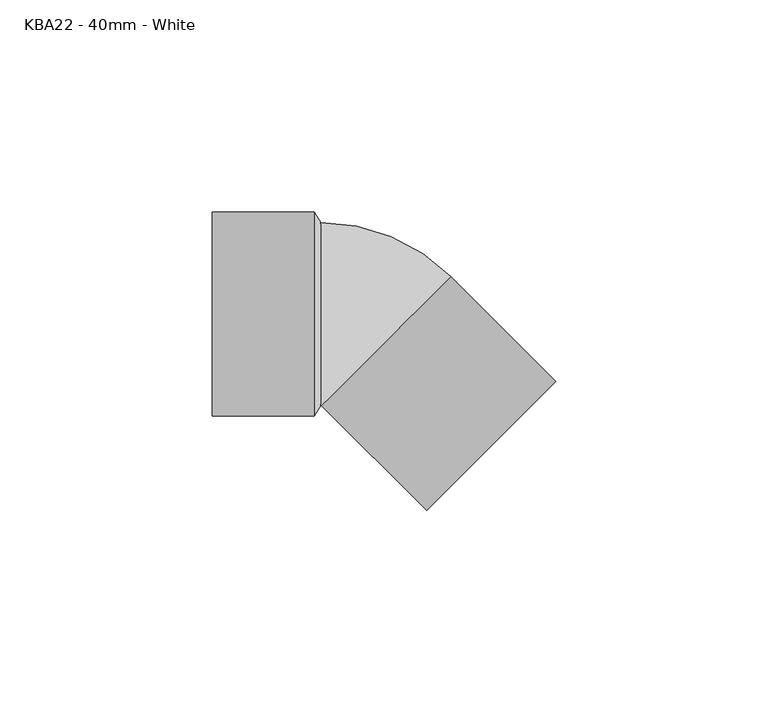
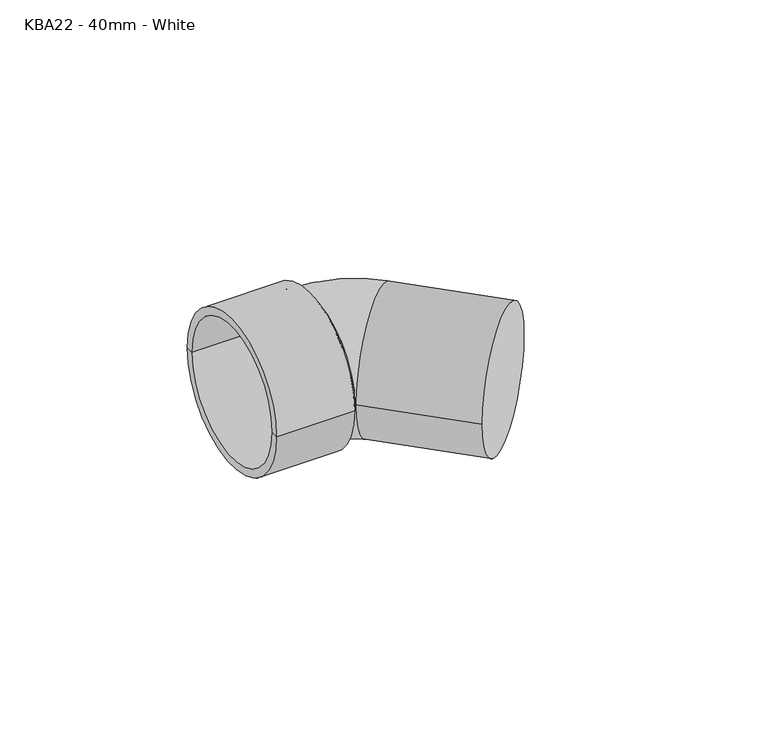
"""IFC4 building model written with IfcOpenShell, lengths in millimetres: pipe fitting geometry, MarleyPlumbingAndDrainage_PipeFitting_SpigotBend45 : KBA22 - 40mm - White."""

from ifc_helpers import new_model, si_unit, point, frame, origin, place, context, project, spatial, polyline, circle_curve, ellipse_curve, trimmed, source, transform, mapped, element, save
from ifc_brep_helpers import plane_surface, cylinder_surface, revolved_surface, advanced_brep


def kba22_40mm_white_08678ae4(model_context):
    return source(origin(), model_context, "Body", "AdvancedBrep", [
        advanced_brep(
        [(-49.2966437, -24.0, 0.0), (-25.2966437, -24.0, 0.0), (-25.2966437, 24.0, 0.0), (-49.2966437, 24.0, 0.0), (-49.2966437, -21.5, 0.0), (-49.2966437, 21.5, 0.0), (-25.2966437, -21.5, 0.0), (-25.2966437, 21.5, 0.0), (-25.2966437, 0.0, 0.0), (-23.7966437, -21.5, 0.0), (-23.7966437, 0.0, 0.0), (-23.7966437, 21.5, 0.0)],
        [
            (0, 1),
            (1, 2, circle_curve(frame((-25.2966437, 0.0, 0.0), z_axis=(-1.0, 0.0, 0.0), x_axis=(0.0, 1.0, 0.0)), 24.0)),
            (2, 3),
            (3, 0, circle_curve(frame((-49.2966437, 0.0, 0.0), z_axis=(1.0, 0.0, 0.0), x_axis=(0.0, 1.0, 0.0)), 24.0)),
            (2, 1, circle_curve(frame((-25.2966437, 0.0, 0.0), z_axis=(-1.0, 0.0, 0.0), x_axis=(0.0, 1.0, 0.0)), 24.0)),
            (0, 3, circle_curve(frame((-49.2966437, 0.0, 0.0), z_axis=(1.0, 0.0, 0.0), x_axis=(0.0, 1.0, 0.0)), 24.0)),
            (4, 0),
            (3, 5),
            (5, 4, circle_curve(frame((-49.2966437, 0.0, 0.0), z_axis=(1.0, 0.0, 0.0), x_axis=(0.0, 1.0, 0.0)), 21.5)),
            (4, 5, circle_curve(frame((-49.2966437, 0.0, 0.0), z_axis=(1.0, 0.0, 0.0), x_axis=(0.0, 1.0, 0.0)), 21.5)),
            (6, 4),
            (5, 7),
            (7, 6, circle_curve(frame((-25.2966437, 0.0, 0.0), z_axis=(1.0, 0.0, 0.0), x_axis=(0.0, 1.0, 0.0)), 21.5)),
            (6, 7, circle_curve(frame((-25.2966437, 0.0, 0.0), z_axis=(1.0, 0.0, 0.0), x_axis=(0.0, 1.0, 0.0)), 21.5)),
            (8, 6),
            (7, 8),
            (9, 10),
            (10, 11),
            (11, 9, circle_curve(frame((-23.7966437, 0.0, 0.0), z_axis=(1.0, 0.0, 0.0), x_axis=(0.0, 1.0, 0.0)), 21.5)),
            (9, 11, circle_curve(frame((-23.7966437, 0.0, 0.0), z_axis=(1.0, 0.0, 0.0), x_axis=(0.0, 1.0, 0.0)), 21.5)),
            (1, 9),
            (11, 2),
        ],
        [
            cylinder_surface(frame((-28.954435, 0.0, 0.0), z_axis=(-1.0, 0.0, 0.0), x_axis=(0.0, 1.0, 0.0)), 24.0),
            plane_surface(frame((-49.2966437, 0.0, 0.0), z_axis=(-1.0, 0.0, 0.0), x_axis=(0.0, 1.0, 0.0))),
            revolved_surface(polyline([(-49.2966437, 21.5, 0.0), (-25.2966437, 21.5, 0.0)]), (-28.954435, 0.0, 0.0), (-1.0, 0.0, 0.0)),
            plane_surface(frame((-25.2966437, 0.0, 0.0), z_axis=(-1.0, 0.0, 0.0), x_axis=(0.0, 1.0, 0.0))),
            plane_surface(frame((-23.7966437, 0.0, 0.0), z_axis=(1.0, 0.0, 0.0), x_axis=(0.0, 1.0, 0.0))),
            revolved_surface(polyline([(-23.7966437, 21.5, 0.0), (-25.2966437, 24.0, 0.0)]), (-28.954435, 0.0, 0.0), (-1.0, 0.0, 0.0)),
        ],
        [
            (0, [[1, 2, 3, 4]]),
            (0, [[-3, 5, -1, 6]]),
            (1, [[7, -4, 8, 9]]),
            (1, [[-8, -6, -7, 10]]),
            (2, [[11, -9, 12, 13]]),
            (2, [[-12, -10, -11, 14]]),
            (3, [[15, -13, 16]]),
            (3, [[-16, -14, -15]]),
            (4, [[17, 18, 19]]),
            (4, [[-18, -17, 20]]),
            (5, [[21, -19, 22, -2]]),
            (5, [[-22, -20, -21, -5]]),
        ],
    ),
        advanced_brep(
        [(-23.7966437, 21.5, 0.0), (-23.7966437, -21.5, 0.0), (-23.5845117, -21.587868, 0.0), (6.8210799, 8.8177236, 0.0), (31.5698172, -15.9310137, 0.0), (1.1642256, -46.3366053, 0.0)],
        [
            (0, 1, circle_curve(frame((-23.7966437, 0.0, 0.0), z_axis=(-1.0, 0.0, 0.0), x_axis=(0.0, -1.0, 0.0)), 21.5)),
            (1, 0, circle_curve(frame((-23.7966437, 0.0, 0.0), z_axis=(-1.0, 0.0, 0.0), x_axis=(0.0, -1.0, 0.0)), 21.5)),
            (2, 3, circle_curve(frame((-8.3817159, -6.3850722, 0.0), z_axis=(-0.7071067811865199, 0.7071067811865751, 0.0), x_axis=(-0.7071067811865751, -0.7071067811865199, 0.0)), 21.5)),
            (3, 0, circle_curve(frame((-23.7966437, -21.8, 0.0), z_axis=(0.0, 0.0, 1.0), x_axis=(0.0, 1.0, 0.0)), 43.3)),
            (1, 2, circle_curve(frame((-23.7966437, -21.8, 0.0), z_axis=(0.0, 0.0, -1.0), x_axis=(0.0, 1.0, 0.0)), 0.3)),
            (3, 2, circle_curve(frame((-8.3817159, -6.3850722, 0.0), z_axis=(-0.7071067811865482, 0.7071067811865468, 0.0), x_axis=(-0.7071067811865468, -0.7071067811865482, 0.0)), 21.5)),
            (4, 5, circle_curve(frame((16.3670214, -31.1338095, 0.0), z_axis=(0.7071067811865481, -0.7071067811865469, 0.0), x_axis=(-0.7071067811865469, -0.7071067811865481, 0.0)), 21.5)),
            (5, 4, circle_curve(frame((16.3670214, -31.1338095, 0.0), z_axis=(0.7071067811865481, -0.7071067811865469, 0.0), x_axis=(-0.7071067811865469, -0.7071067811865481, 0.0)), 21.5)),
            (2, 5),
            (4, 3),
        ],
        [
            plane_surface(frame((-23.7966437, 0.0, 0.0), z_axis=(-1.0, 0.0, 0.0), x_axis=(0.0, 0.0, 1.0))),
            revolved_surface(trimmed(ellipse_curve(frame((-23.7966437, 0.0, 0.0), z_axis=(1.0, 0.0, 0.0), x_axis=(0.0, -1.0, 0.0)), 21.5, 21.5), [point((-23.7966437, 21.5, 0.0))], [point((-23.7966437, -21.5, 0.0))], True, "CARTESIAN"), (-23.7966437, -21.8, 0.0), (0.0, 0.0, 1.0)),
            revolved_surface(trimmed(ellipse_curve(frame((-23.7966437, 0.0, 0.0), z_axis=(1.0, 0.0, 0.0), x_axis=(0.0, -1.0, 0.0)), 21.5, 21.5), [point((-23.7966437, -21.5, 0.0))], [point((-23.7966437, 21.5, 0.0))], True, "CARTESIAN"), (-23.7966437, -21.8, 0.0), (0.0, 0.0, 1.0)),
            plane_surface(frame((16.3670214, -31.1338095, 0.0), z_axis=(0.7071067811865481, -0.7071067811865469, 0.0), x_axis=(0.0, 0.0, 1.0))),
            cylinder_surface(frame((-8.3817159, -6.3850722, 0.0), z_axis=(-0.7071067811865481, 0.7071067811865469, 0.0), x_axis=(-0.7071067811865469, -0.7071067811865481, 0.0)), 21.5),
        ],
        [
            (0, [[1, 2]]),
            (1, [[3, 4, -2, 5]]),
            (2, [[6, -5, -1, -4]]),
            (3, [[7, 8]]),
            (4, [[9, -7, 10, -3]]),
            (4, [[-10, -8, -9, -6]]),
        ],
    ),
    ])


if __name__ == "__main__":
    model = new_model("IFC4")
    model_context = context("Model", 3, world=origin())
    ifc_project = project(units=[si_unit("LENGTHUNIT", "METRE", prefix="MILLI")], contexts=[model_context])
    site = spatial("IfcSite", under=ifc_project)
    building = spatial("IfcBuilding", under=site)
    placement = place(None, origin())
    kba22_40mm_white_shape = kba22_40mm_white_08678ae4(model_context)
    element("IfcPipeFitting", 1, ObjectType="MarleyPlumbingAndDrainage_PipeFitting_SpigotBend45 : KBA22 - 40mm - White", at=placement, inside=building, context=model_context, shape_type="MappedRepresentation", body=[
        mapped(kba22_40mm_white_shape, transform((0.0, 0.0, 0.0), x_axis=(1.0, 0.0, 0.0), y_axis=(0.0, 1.0, 0.0), z_axis=(0.0, 0.0, 1.0))),
    ])
    save(model, "model.ifc")
